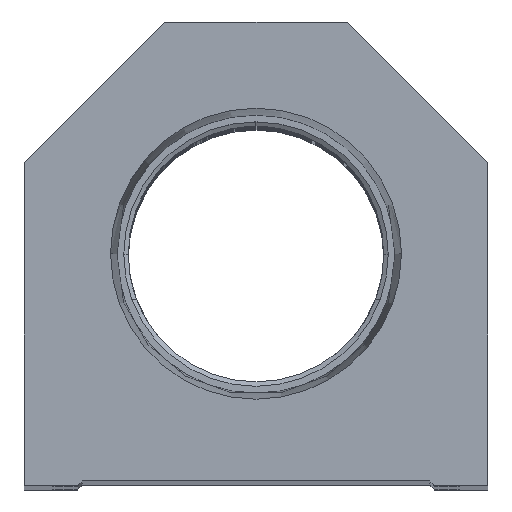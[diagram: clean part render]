
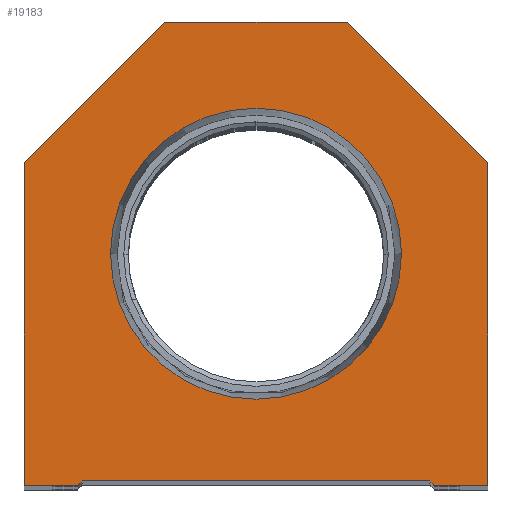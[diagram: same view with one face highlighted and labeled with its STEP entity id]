
A CAD part, top view. The second image highlights one B-rep face of the part: STEP entity #19183.
In plain terms, the highlighted planar face has unit normal (0, 0, 1).
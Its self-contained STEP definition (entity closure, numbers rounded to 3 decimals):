
#688 = DIRECTION ( 'NONE',  ( 0., 0., 1. ) ) ;
#697 = EDGE_CURVE ( 'NONE', #7091, #4357, #2393, .T. ) ;
#726 = CARTESIAN_POINT ( 'NONE',  ( 25.4, 0., 0. ) ) ;
#1238 = LINE ( 'NONE', #11910, #18211 ) ;
#1795 = CARTESIAN_POINT ( 'NONE',  ( 25.4, 35.4, 0. ) ) ;
#1913 = ORIENTED_EDGE ( 'NONE', *, *, #18755, .T. ) ;
#1935 = LINE ( 'NONE', #10420, #25102 ) ;
#2062 = ORIENTED_EDGE ( 'NONE', *, *, #6466, .T. ) ;
#2364 = VECTOR ( 'NONE', #24162, 1000. ) ;
#2393 = CIRCLE ( 'NONE', #17905, 15.947 ) ;
#2433 = AXIS2_PLACEMENT_3D ( 'NONE', #4009, #26945, #12047 ) ;
#2438 = EDGE_CURVE ( 'NONE', #12557, #8947, #3193, .T. ) ;
#2751 = VERTEX_POINT ( 'NONE', #10549 ) ;
#3193 = LINE ( 'NONE', #11662, #22471 ) ;
#3195 = LINE ( 'NONE', #11664, #3825 ) ;
#3825 = VECTOR ( 'NONE', #18056, 1000. ) ;
#4009 = CARTESIAN_POINT ( 'NONE',  ( 0., 0., 0. ) ) ;
#4059 = DIRECTION ( 'NONE',  ( 1., 0., 0. ) ) ;
#4357 = VERTEX_POINT ( 'NONE', #7046 ) ;
#4720 = CARTESIAN_POINT ( 'NONE',  ( 19.55, 0., 0. ) ) ;
#5058 = ORIENTED_EDGE ( 'NONE', *, *, #24967, .F. ) ;
#5060 = CARTESIAN_POINT ( 'NONE',  ( -19.05, 0.5, 0. ) ) ;
#5195 = DIRECTION ( 'NONE',  ( 0.707, 0.707, 0. ) ) ;
#5715 = CARTESIAN_POINT ( 'NONE',  ( 25.4, 35.4, 0. ) ) ;
#5812 = LINE ( 'NONE', #1795, #12227 ) ;
#5855 = CARTESIAN_POINT ( 'NONE',  ( 0., 25.4, 0. ) ) ;
#6084 = FACE_BOUND ( 'NONE', #19624, .T. ) ;
#6302 = EDGE_CURVE ( 'NONE', #8947, #2751, #5812, .T. ) ;
#6354 = ORIENTED_EDGE ( 'NONE', *, *, #26728, .T. ) ;
#6466 = EDGE_CURVE ( 'NONE', #26051, #14685, #1935, .T. ) ;
#7046 = CARTESIAN_POINT ( 'NONE',  ( -15.947, 25.4, 0. ) ) ;
#7091 = VERTEX_POINT ( 'NONE', #10877 ) ;
#7241 = LINE ( 'NONE', #14014, #2364 ) ;
#7546 = LINE ( 'NONE', #26281, #23278 ) ;
#8518 = EDGE_CURVE ( 'NONE', #2751, #26051, #7241, .T. ) ;
#8947 = VERTEX_POINT ( 'NONE', #5715 ) ;
#8948 = DIRECTION ( 'NONE',  ( 1., 0., 0. ) ) ;
#10185 = CARTESIAN_POINT ( 'NONE',  ( -19.05, 0., 0. ) ) ;
#10394 = DIRECTION ( 'NONE',  ( -0.707, 0.707, 0. ) ) ;
#10420 = CARTESIAN_POINT ( 'NONE',  ( -25.4, 35.4, 0. ) ) ;
#10549 = CARTESIAN_POINT ( 'NONE',  ( 10., 50.8, 0. ) ) ;
#10877 = CARTESIAN_POINT ( 'NONE',  ( 15.947, 25.4, 0. ) ) ;
#11414 = DIRECTION ( 'NONE',  ( 0., -1., 0. ) ) ;
#11662 = CARTESIAN_POINT ( 'NONE',  ( 25.4, 0., 0. ) ) ;
#11664 = CARTESIAN_POINT ( 'NONE',  ( 19.05, 0., 0. ) ) ;
#11910 = CARTESIAN_POINT ( 'NONE',  ( 9.775, 9.775, 0. ) ) ;
#12037 = DIRECTION ( 'NONE',  ( 0.707, -0.707, 0. ) ) ;
#12047 = DIRECTION ( 'NONE',  ( 1., 0., 0. ) ) ;
#12227 = VECTOR ( 'NONE', #10394, 1000. ) ;
#12364 = DIRECTION ( 'NONE',  ( -0.707, -0.707, 0. ) ) ;
#12557 = VERTEX_POINT ( 'NONE', #726 ) ;
#12792 = DIRECTION ( 'NONE',  ( 1., 0., 0. ) ) ;
#12971 = ORIENTED_EDGE ( 'NONE', *, *, #2438, .T. ) ;
#13271 = VERTEX_POINT ( 'NONE', #23878 ) ;
#14014 = CARTESIAN_POINT ( 'NONE',  ( 10., 50.8, 0. ) ) ;
#14277 = EDGE_CURVE ( 'NONE', #13271, #24507, #24760, .T. ) ;
#14685 = VERTEX_POINT ( 'NONE', #14977 ) ;
#14977 = CARTESIAN_POINT ( 'NONE',  ( -25.4, 35.4, 0. ) ) ;
#15074 = CARTESIAN_POINT ( 'NONE',  ( -25.4, 0., 0. ) ) ;
#15130 = CARTESIAN_POINT ( 'NONE',  ( 0., 25.4, 0. ) ) ;
#15676 = DIRECTION ( 'NONE',  ( 0., 1., 0. ) ) ;
#16364 = FACE_OUTER_BOUND ( 'NONE', #23486, .T. ) ;
#16840 = AXIS2_PLACEMENT_3D ( 'NONE', #15130, #688, #21936 ) ;
#16907 = ORIENTED_EDGE ( 'NONE', *, *, #20180, .T. ) ;
#16972 = VECTOR ( 'NONE', #5195, 1000. ) ;
#17354 = ORIENTED_EDGE ( 'NONE', *, *, #14277, .T. ) ;
#17467 = EDGE_CURVE ( 'NONE', #24761, #13271, #17939, .T. ) ;
#17564 = VECTOR ( 'NONE', #12792, 1000. ) ;
#17800 = CARTESIAN_POINT ( 'NONE',  ( -9.775, 9.775, 0. ) ) ;
#17905 = AXIS2_PLACEMENT_3D ( 'NONE', #5855, #25027, #4059 ) ;
#17939 = LINE ( 'NONE', #17800, #16972 ) ;
#17942 = ORIENTED_EDGE ( 'NONE', *, *, #17467, .T. ) ;
#18056 = DIRECTION ( 'NONE',  ( 1., 0., 0. ) ) ;
#18211 = VECTOR ( 'NONE', #12037, 1000. ) ;
#18755 = EDGE_CURVE ( 'NONE', #14685, #22277, #7546, .T. ) ;
#18779 = ORIENTED_EDGE ( 'NONE', *, *, #6302, .T. ) ;
#19010 = VERTEX_POINT ( 'NONE', #4720 ) ;
#19183 = ADVANCED_FACE ( 'NONE', ( #6084, #16364 ), #25119, .T. ) ;
#19624 = EDGE_LOOP ( 'NONE', ( #27235, #5058 ) ) ;
#19786 = CARTESIAN_POINT ( 'NONE',  ( -10., 50.8, 0. ) ) ;
#20180 = EDGE_CURVE ( 'NONE', #22277, #24761, #23210, .T. ) ;
#21161 = EDGE_CURVE ( 'NONE', #19010, #12557, #3195, .T. ) ;
#21802 = CARTESIAN_POINT ( 'NONE',  ( -19.55, 0., 0. ) ) ;
#21936 = DIRECTION ( 'NONE',  ( 1., 0., 0. ) ) ;
#22277 = VERTEX_POINT ( 'NONE', #15074 ) ;
#22471 = VECTOR ( 'NONE', #15676, 1000. ) ;
#23210 = LINE ( 'NONE', #10185, #17564 ) ;
#23278 = VECTOR ( 'NONE', #11414, 1000. ) ;
#23486 = EDGE_LOOP ( 'NONE', ( #16907, #17942, #17354, #6354, #25342, #12971, #18779, #24897, #2062, #1913 ) ) ;
#23878 = CARTESIAN_POINT ( 'NONE',  ( -19.05, 0.5, 0. ) ) ;
#24079 = CARTESIAN_POINT ( 'NONE',  ( 19.05, 0.5, 0. ) ) ;
#24162 = DIRECTION ( 'NONE',  ( -1., 0., 0. ) ) ;
#24507 = VERTEX_POINT ( 'NONE', #24079 ) ;
#24760 = LINE ( 'NONE', #5060, #27019 ) ;
#24761 = VERTEX_POINT ( 'NONE', #21802 ) ;
#24897 = ORIENTED_EDGE ( 'NONE', *, *, #8518, .T. ) ;
#24967 = EDGE_CURVE ( 'NONE', #4357, #7091, #25274, .T. ) ;
#25027 = DIRECTION ( 'NONE',  ( 0., 0., 1. ) ) ;
#25102 = VECTOR ( 'NONE', #12364, 1000. ) ;
#25119 = PLANE ( 'NONE',  #2433 ) ;
#25274 = CIRCLE ( 'NONE', #16840, 15.947 ) ;
#25342 = ORIENTED_EDGE ( 'NONE', *, *, #21161, .T. ) ;
#26051 = VERTEX_POINT ( 'NONE', #19786 ) ;
#26281 = CARTESIAN_POINT ( 'NONE',  ( -25.4, 0., 0. ) ) ;
#26728 = EDGE_CURVE ( 'NONE', #24507, #19010, #1238, .T. ) ;
#26945 = DIRECTION ( 'NONE',  ( 0., 0., 1. ) ) ;
#27019 = VECTOR ( 'NONE', #8948, 1000. ) ;
#27235 = ORIENTED_EDGE ( 'NONE', *, *, #697, .F. ) ;
